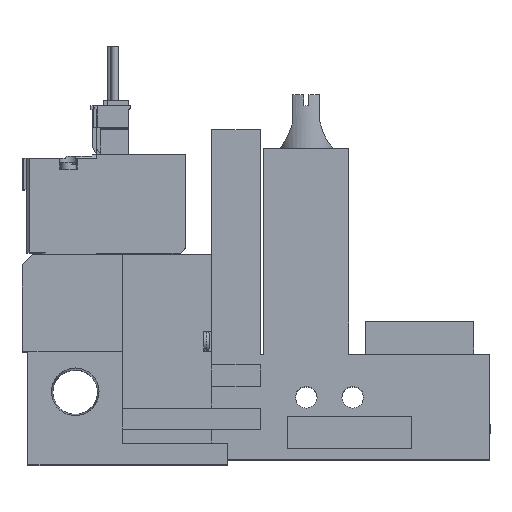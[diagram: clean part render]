
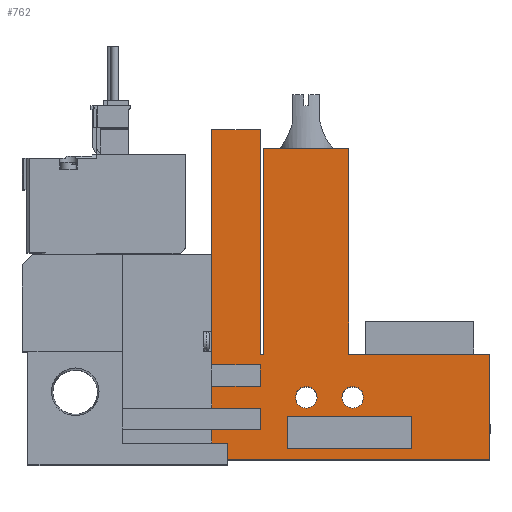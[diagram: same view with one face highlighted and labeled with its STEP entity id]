
A CAD part, top view. The second image highlights one B-rep face of the part: STEP entity #762.
In plain terms, the highlighted planar face has unit normal (0, 0, 1).
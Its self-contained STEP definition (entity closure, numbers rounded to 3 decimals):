
#762=ADVANCED_FACE('',(#1551,#1552,#1553,#1554),#1555,.T.);
#1551=FACE_OUTER_BOUND('',#2506,.T.);
#1552=FACE_BOUND('',#2507,.T.);
#1553=FACE_BOUND('',#2508,.T.);
#1554=FACE_BOUND('',#2509,.T.);
#1555=PLANE('',#2510);
#2506=EDGE_LOOP('',(#5454,#5455,#5456,#5457,#5458,#5459,#5460,#5461,#5462,#5463,#5464,#5465,#5466,#5467,#5468,#5469,#5470,#5471));
#2507=EDGE_LOOP('',(#5472,#5473,#5474,#5475));
#2508=EDGE_LOOP('',(#5476));
#2509=EDGE_LOOP('',(#5477));
#2510=AXIS2_PLACEMENT_3D('',#5478,#5479,#5480);
#5454=ORIENTED_EDGE('',*,*,#6885,.T.);
#5455=ORIENTED_EDGE('',*,*,#6802,.T.);
#5456=ORIENTED_EDGE('',*,*,#6888,.T.);
#5457=ORIENTED_EDGE('',*,*,#6944,.T.);
#5458=ORIENTED_EDGE('',*,*,#6757,.T.);
#5459=ORIENTED_EDGE('',*,*,#6834,.T.);
#5460=ORIENTED_EDGE('',*,*,#6943,.T.);
#5461=ORIENTED_EDGE('',*,*,#6809,.T.);
#5462=ORIENTED_EDGE('',*,*,#6805,.T.);
#5463=ORIENTED_EDGE('',*,*,#6762,.T.);
#5464=ORIENTED_EDGE('',*,*,#6907,.T.);
#5465=ORIENTED_EDGE('',*,*,#6862,.T.);
#5466=ORIENTED_EDGE('',*,*,#6901,.T.);
#5467=ORIENTED_EDGE('',*,*,#6890,.T.);
#5468=ORIENTED_EDGE('',*,*,#6927,.T.);
#5469=ORIENTED_EDGE('',*,*,#6934,.T.);
#5470=ORIENTED_EDGE('',*,*,#6797,.T.);
#5471=ORIENTED_EDGE('',*,*,#6937,.T.);
#5472=ORIENTED_EDGE('',*,*,#6910,.T.);
#5473=ORIENTED_EDGE('',*,*,#6856,.T.);
#5474=ORIENTED_EDGE('',*,*,#6924,.T.);
#5475=ORIENTED_EDGE('',*,*,#6941,.T.);
#5476=ORIENTED_EDGE('',*,*,#6936,.T.);
#5477=ORIENTED_EDGE('',*,*,#6865,.T.);
#5478=CARTESIAN_POINT('',(0.0,0.0,10.0));
#5479=DIRECTION('',(0.0,0.0,1.0));
#5480=DIRECTION('',(1.0,0.0,0.0));
#6757=EDGE_CURVE('',#8255,#8253,#8256,.T.);
#6762=EDGE_CURVE('',#8265,#8263,#8266,.T.);
#6797=EDGE_CURVE('',#8331,#8329,#8332,.T.);
#6802=EDGE_CURVE('',#8334,#8338,#8340,.T.);
#6805=EDGE_CURVE('',#8342,#8265,#8345,.T.);
#6809=EDGE_CURVE('',#8351,#8342,#8352,.T.);
#6834=EDGE_CURVE('',#8253,#8391,#8392,.T.);
#6856=EDGE_CURVE('',#8424,#8429,#8431,.T.);
#6862=EDGE_CURVE('',#8442,#8440,#8443,.T.);
#6865=EDGE_CURVE('',#8447,#8447,#8448,.T.);
#6885=EDGE_CURVE('',#8476,#8334,#8477,.T.);
#6888=EDGE_CURVE('',#8338,#8479,#8481,.T.);
#6890=EDGE_CURVE('',#8484,#8482,#8485,.T.);
#6901=EDGE_CURVE('',#8440,#8484,#8500,.T.);
#6907=EDGE_CURVE('',#8263,#8442,#8509,.T.);
#6910=EDGE_CURVE('',#8510,#8424,#8514,.T.);
#6924=EDGE_CURVE('',#8429,#8533,#8535,.T.);
#6927=EDGE_CURVE('',#8482,#8537,#8539,.T.);
#6934=EDGE_CURVE('',#8537,#8331,#8548,.T.);
#6936=EDGE_CURVE('',#8550,#8550,#8551,.T.);
#6937=EDGE_CURVE('',#8329,#8476,#8552,.T.);
#6941=EDGE_CURVE('',#8533,#8510,#8556,.T.);
#6943=EDGE_CURVE('',#8391,#8351,#8558,.T.);
#6944=EDGE_CURVE('',#8479,#8255,#8559,.T.);
#8253=VERTEX_POINT('',#10659);
#8255=VERTEX_POINT('',#10662);
#8256=LINE('',#10663,#10664);
#8263=VERTEX_POINT('',#10674);
#8265=VERTEX_POINT('',#10677);
#8266=LINE('',#10678,#10679);
#8329=VERTEX_POINT('',#10791);
#8331=VERTEX_POINT('',#10794);
#8332=LINE('',#10795,#10796);
#8334=VERTEX_POINT('',#10799);
#8338=VERTEX_POINT('',#10805);
#8340=LINE('',#10808,#10809);
#8342=VERTEX_POINT('',#10811);
#8345=LINE('',#10816,#10817);
#8351=VERTEX_POINT('',#10826);
#8352=LINE('',#10827,#10828);
#8391=VERTEX_POINT('',#10891);
#8392=LINE('',#10892,#10893);
#8424=VERTEX_POINT('',#10941);
#8429=VERTEX_POINT('',#10948);
#8431=LINE('',#10951,#10952);
#8440=VERTEX_POINT('',#10965);
#8442=VERTEX_POINT('',#10968);
#8443=LINE('',#10969,#10970);
#8447=VERTEX_POINT('',#10975);
#8448=CIRCLE('',#10976,2.0);
#8476=VERTEX_POINT('',#11020);
#8477=LINE('',#11021,#11022);
#8479=VERTEX_POINT('',#11025);
#8481=LINE('',#11028,#11029);
#8482=VERTEX_POINT('',#11030);
#8484=VERTEX_POINT('',#11033);
#8485=LINE('',#11034,#11035);
#8500=LINE('',#11060,#11061);
#8509=LINE('',#11075,#11076);
#8510=VERTEX_POINT('',#11077);
#8514=LINE('',#11083,#11084);
#8533=VERTEX_POINT('',#11113);
#8535=LINE('',#11116,#11117);
#8537=VERTEX_POINT('',#11120);
#8539=LINE('',#11123,#11124);
#8548=LINE('',#11138,#11139);
#8550=VERTEX_POINT('',#11142);
#8551=CIRCLE('',#11143,2.0);
#8552=LINE('',#11144,#11145);
#8556=LINE('',#11150,#11151);
#8558=LINE('',#11154,#11155);
#8559=LINE('',#11156,#11157);
#10659=CARTESIAN_POINT('',(35.1,9.5,10.0));
#10662=CARTESIAN_POINT('',(35.1,13.5,10.0));
#10663=CARTESIAN_POINT('',(35.1,0.0,10.0));
#10664=VECTOR('',#12535,1.0);
#10674=CARTESIAN_POINT('',(86.6,0.0,10.0));
#10677=CARTESIAN_POINT('',(35.1,0.0,10.0));
#10678=CARTESIAN_POINT('',(18.6,0.0,10.0));
#10679=VECTOR('',#12540,1.0);
#10791=CARTESIAN_POINT('',(44.1,61.0,10.0));
#10794=CARTESIAN_POINT('',(44.1,19.5,10.0));
#10795=CARTESIAN_POINT('',(44.1,19.5,10.0));
#10796=VECTOR('',#12586,1.0);
#10799=CARTESIAN_POINT('',(35.1,17.5,10.0));
#10805=CARTESIAN_POINT('',(44.1,17.5,10.0));
#10808=CARTESIAN_POINT('',(0.0,17.5,10.0));
#10809=VECTOR('',#12591,1.0);
#10811=CARTESIAN_POINT('',(35.1,5.5,10.0));
#10816=CARTESIAN_POINT('',(35.1,0.0,10.0));
#10817=VECTOR('',#12594,1.0);
#10826=CARTESIAN_POINT('',(44.1,5.5,10.0));
#10827=CARTESIAN_POINT('',(0.0,5.5,10.0));
#10828=VECTOR('',#12598,1.0);
#10891=CARTESIAN_POINT('',(44.1,9.5,10.0));
#10892=CARTESIAN_POINT('',(0.0,9.5,10.0));
#10893=VECTOR('',#12623,1.0);
#10941=CARTESIAN_POINT('',(49.1,8.0,10.0));
#10948=CARTESIAN_POINT('',(72.1,8.0,10.0));
#10951=CARTESIAN_POINT('',(0.0,8.0,10.0));
#10952=VECTOR('',#12649,1.0);
#10965=CARTESIAN_POINT('',(60.45,19.5,10.0));
#10968=CARTESIAN_POINT('',(86.6,19.5,10.0));
#10969=CARTESIAN_POINT('',(86.6,19.5,10.0));
#10970=VECTOR('',#12655,1.0);
#10975=CARTESIAN_POINT('',(63.2,11.5,10.0));
#10976=AXIS2_PLACEMENT_3D('',#12660,#12661,#12662);
#11020=CARTESIAN_POINT('',(35.1,61.0,10.0));
#11021=CARTESIAN_POINT('',(35.1,61.0,10.0));
#11022=VECTOR('',#12688,1.0);
#11025=CARTESIAN_POINT('',(44.1,13.5,10.0));
#11028=CARTESIAN_POINT('',(44.1,0.0,10.0));
#11029=VECTOR('',#12691,1.0);
#11030=CARTESIAN_POINT('',(44.75,57.5,10.0));
#11033=CARTESIAN_POINT('',(60.45,57.5,10.0));
#11034=CARTESIAN_POINT('',(60.45,57.5,10.0));
#11035=VECTOR('',#12693,1.0);
#11060=CARTESIAN_POINT('',(60.45,19.5,10.0));
#11061=VECTOR('',#12704,1.0);
#11075=CARTESIAN_POINT('',(86.6,0.0,10.0));
#11076=VECTOR('',#12710,1.0);
#11077=CARTESIAN_POINT('',(49.1,2.0,10.0));
#11083=CARTESIAN_POINT('',(49.1,0.0,10.0));
#11084=VECTOR('',#12713,1.0);
#11113=CARTESIAN_POINT('',(72.1,2.0,10.0));
#11116=CARTESIAN_POINT('',(72.1,0.0,10.0));
#11117=VECTOR('',#12731,1.0);
#11120=CARTESIAN_POINT('',(44.75,19.5,10.0));
#11123=CARTESIAN_POINT('',(44.75,57.5,10.0));
#11124=VECTOR('',#12734,1.0);
#11138=CARTESIAN_POINT('',(44.75,19.5,10.0));
#11139=VECTOR('',#12743,1.0);
#11142=CARTESIAN_POINT('',(54.6,11.5,10.0));
#11143=AXIS2_PLACEMENT_3D('',#12745,#12746,#12747);
#11144=CARTESIAN_POINT('',(44.1,61.0,10.0));
#11145=VECTOR('',#12748,1.0);
#11150=CARTESIAN_POINT('',(0.0,2.0,10.0));
#11151=VECTOR('',#12753,1.0);
#11154=CARTESIAN_POINT('',(44.1,0.0,10.0));
#11155=VECTOR('',#12755,1.0);
#11156=CARTESIAN_POINT('',(0.0,13.5,10.0));
#11157=VECTOR('',#12756,1.0);
#12535=DIRECTION('',(0.0,-1.0,0.0));
#12540=DIRECTION('',(1.0,0.0,0.0));
#12586=DIRECTION('',(0.0,1.0,0.0));
#12591=DIRECTION('',(1.0,0.0,0.0));
#12594=DIRECTION('',(0.0,-1.0,0.0));
#12598=DIRECTION('',(-1.0,0.0,0.0));
#12623=DIRECTION('',(1.0,0.0,0.0));
#12649=DIRECTION('',(1.0,0.0,0.0));
#12655=DIRECTION('',(-1.0,0.0,0.0));
#12660=CARTESIAN_POINT('',(61.2,11.5,10.0));
#12661=DIRECTION('',(0.0,0.0,-1.0));
#12662=DIRECTION('',(1.0,0.0,0.0));
#12688=DIRECTION('',(0.0,-1.0,0.0));
#12691=DIRECTION('',(0.0,-1.0,0.0));
#12693=DIRECTION('',(-1.0,0.0,0.0));
#12704=DIRECTION('',(0.0,1.0,0.0));
#12710=DIRECTION('',(0.0,1.0,0.0));
#12713=DIRECTION('',(0.0,1.0,0.0));
#12731=DIRECTION('',(0.0,-1.0,0.0));
#12734=DIRECTION('',(0.0,-1.0,0.0));
#12743=DIRECTION('',(-1.0,0.0,0.0));
#12745=CARTESIAN_POINT('',(52.6,11.5,10.0));
#12746=DIRECTION('',(0.0,0.0,-1.0));
#12747=DIRECTION('',(1.0,0.0,0.0));
#12748=DIRECTION('',(-1.0,0.0,0.0));
#12753=DIRECTION('',(-1.0,0.0,0.0));
#12755=DIRECTION('',(0.0,-1.0,0.0));
#12756=DIRECTION('',(-1.0,0.0,0.0));
